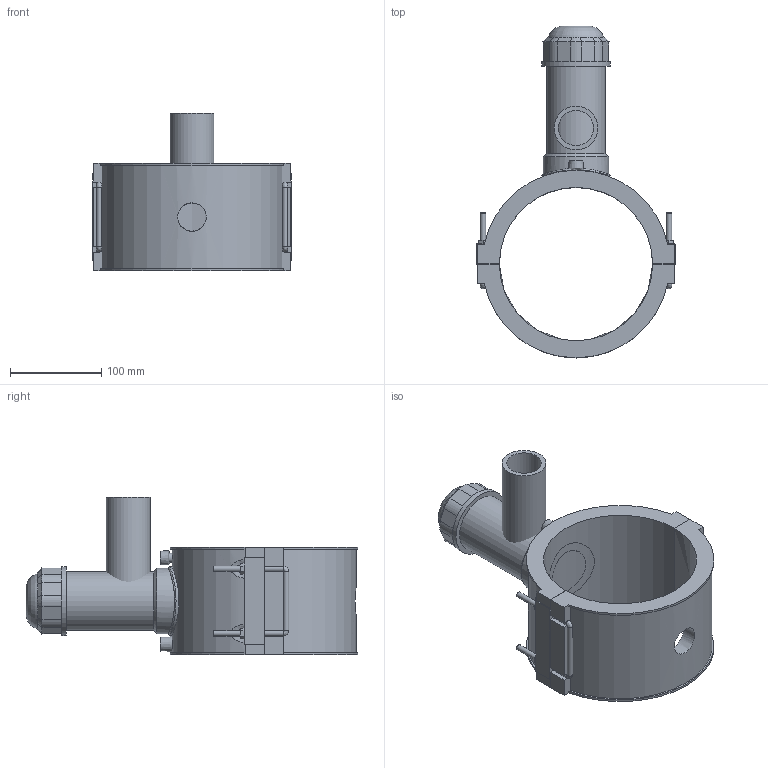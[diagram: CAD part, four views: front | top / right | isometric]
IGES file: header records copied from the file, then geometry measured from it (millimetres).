
Global section: file name: 5963BBP3060015.ipt; native system: Autodesk Inventor 2019; preprocessor: unknown; author: KIM; date: 20210830.101546; units: inch
Bounding box: 217.9 x 363.85 x 173.1 mm (x, y, z)
Volume: 1647456.5 mm3; surface area: 289890.9 mm2
Topology: 3 solids, 4 shells, 185 faces, 464 edges, 293 vertices
Faces by surface type: plane 115, cylinder 33, cone 15, revolution 13, bspline 9
Full cylindrical faces by diameter (mm): 4 x2, 6 x10, 48.1 x1, 64.26 x1, 71.82 x1, 75.6 x2
